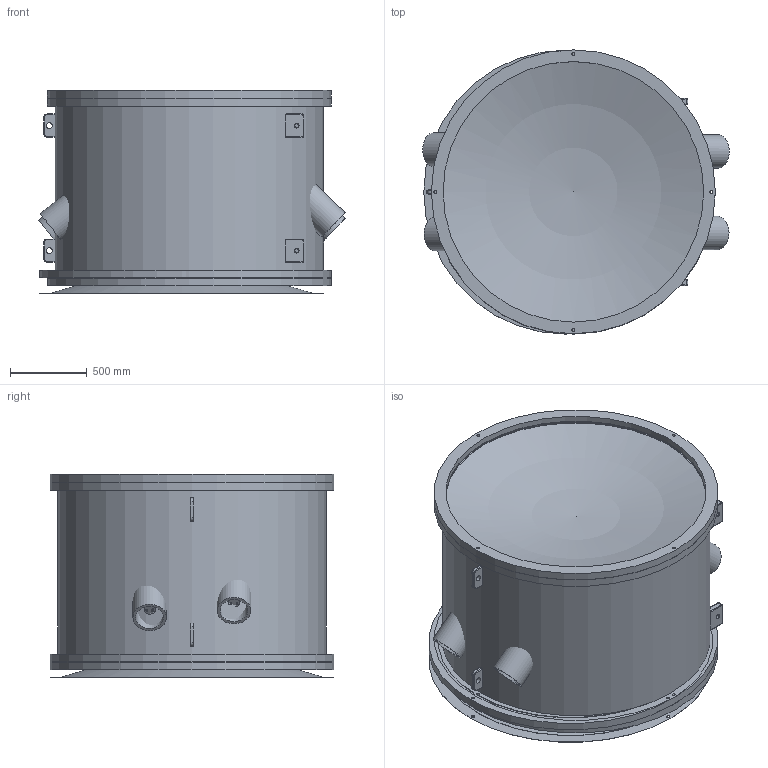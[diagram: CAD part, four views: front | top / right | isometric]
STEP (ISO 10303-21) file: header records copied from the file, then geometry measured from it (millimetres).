
FILE_DESCRIPTION( ( 'Unknown' ), '1' );
FILE_NAME( 'C:/Users/Lee/Documents/HGC Work/Solid Edge/heavy_gas_cherenkov_v5/step/detector.stp', 'Unknown', ( 'Unknown' ), ( 'Unknown' ), 'PSStep 13.0', 'Unknown', ' ' );
FILE_SCHEMA( ( 'AUTOMOTIVE_DESIGN { 1 0 10303 214 1 1 1 1 }' ) );
Length unit declared in the file: millimetre
Products named in the file (13): Assem1; quartz_window; quartz_window-oa0; quartz_window_sleeve-oa1; quartz_holder-oa2; pmt-oa3; quartz_adapter-oa4; window; window_clamp; crane_mount; mounting_bracket; mounting_bracket_mir; vessel
Bounding box: 1999.23 x 1852.4 x 1324.79 mm (x, y, z)
Volume: 508812919.7 mm3; surface area: 55462537.7 mm2
Topology: 47 solids, 47 shells, 745 faces, 1522 edges, 1015 vertices
Faces by surface type: cylinder 383, plane 265, torus 67, sphere 12, cone 12, bspline 6
Full cylindrical faces by diameter (mm): 6.647 x96, 10 x6, 12 x6, 13 x48, 19.05 x40, 25.4 x6, 38.1 x3, 74 x6, 77 x6, 133 x12, 142 x6, 164 x12, 182 x6, 184 x12, 219.075 x12, 1700 x5, 1736.6 x4, 1750.8 x2, 1765 x4, 1852.4 x10
Entity records: 6263 total; most frequent: CARTESIAN_POINT 942, DIRECTION 864, ORIENTED_EDGE 540, AXIS2_PLACEMENT_3D 405, EDGE_LOOP 354, EDGE_CURVE 270, FACE_OUTER_BOUND 258, VERTEX_POINT 223
